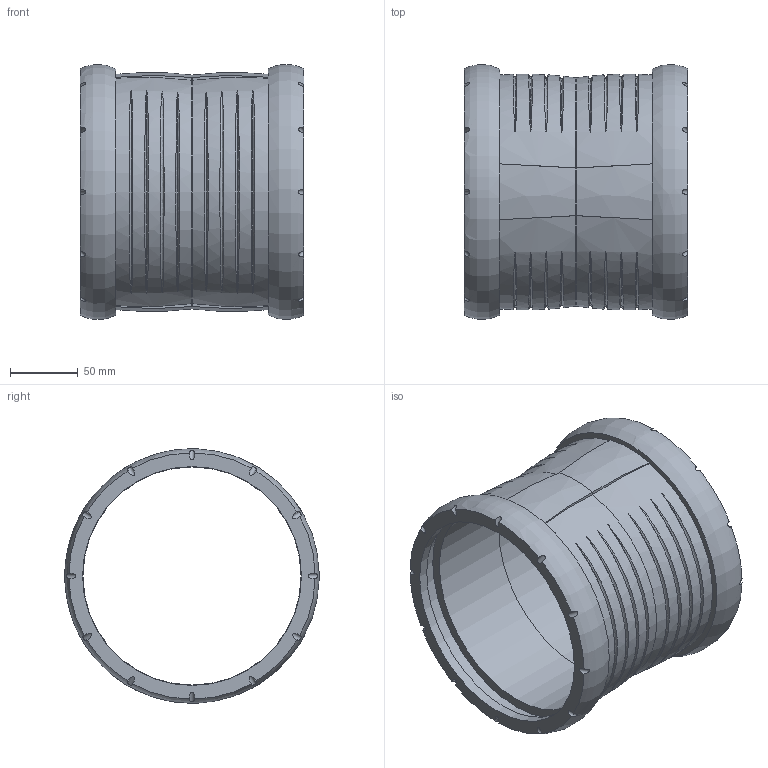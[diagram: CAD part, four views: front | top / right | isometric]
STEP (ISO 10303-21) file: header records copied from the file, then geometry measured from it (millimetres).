
FILE_DESCRIPTION(/* description */ (''),/* implementation_level */ '2;1');
FILE_NAME(/* name */ 'H:\Geberit-Teile\Export\Doppelsteckmuffe\stp\393717.stp',/* time_stamp */ '2017-02-14T08:57:29+01:00',/* author */ ('seihe2'),/* organization */ (''),/* preprocessor_version */ 'ST-DEVELOPER v15.2',/* originating_system */ 'Autodesk Inventor 2014',/* authorisation */ '');
FILE_SCHEMA (('AUTOMOTIVE_DESIGN { 1 0 10303 214 3 1 1 }'));
Length unit declared in the file: millimetre
Products named in the file (1): 393717
Bounding box: 165 x 188.02 x 188.43 mm (x, y, z)
Volume: 613872.3 mm3; surface area: 217696.9 mm2
Topology: 2 solids, 2 shells, 86 faces, 216 edges, 156 vertices
Faces by surface type: bspline 44, cylinder 30, plane 10, torus 2
Full cylindrical faces by diameter (mm): 161.2 x2, 161.7 x2, 174.9 x2
Entity records: 7201 total; most frequent: CARTESIAN_POINT 5371, ORIENTED_EDGE 404, DIRECTION 250, EDGE_CURVE 202, VERTEX_POINT 150, AXIS2_PLACEMENT_3D 125, B_SPLINE_CURVE_WITH_KNOTS 120, EDGE_LOOP 120
